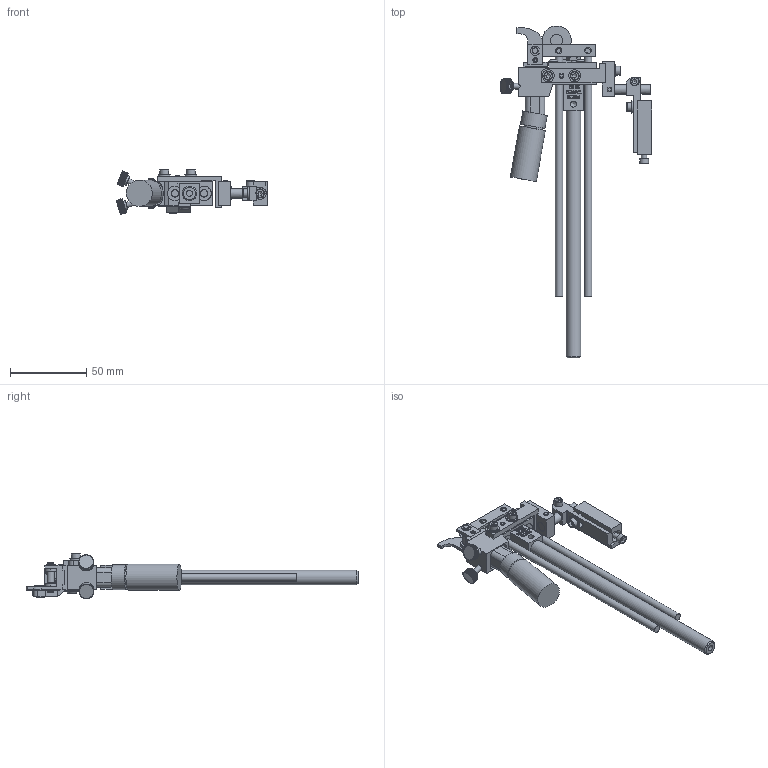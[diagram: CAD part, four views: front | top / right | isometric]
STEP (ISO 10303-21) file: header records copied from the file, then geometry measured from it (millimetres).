
FILE_DESCRIPTION((''),'2;1');
FILE_NAME('C:\Documents and Settings\Ron\My Documents\Inventor\Sprinter Drawing\Machines in Inventor\Model 22\Dot\1-fourth\Ext Str\E4\Brkt\Ret\Model 22 ES 4 1-4 dot ret w brkt.stp','2009-01-23T14:00:28',('Ron'),(''),'Autodesk Inventor 2008','Autodesk Inventor 2008','');
FILE_SCHEMA(('AUTOMOTIVE_DESIGN { 1 0 10303 214 1 1 1 1 }'));
Length unit declared in the file: inch
Products named in the file (1): Model 22 ES 4 1-4 dot ret w brkt
Bounding box: 99.17 x 217.43 x 29.55 mm (x, y, z)
Volume: 67369.1 mm3; surface area: 39495.4 mm2
Topology: 33 solids, 33 shells, 4744 faces, 13170 edges, 8746 vertices
Faces by surface type: plane 2899, bspline 1290, cylinder 484, cone 57, torus 14
Full cylindrical faces by diameter (mm): 2.845 x3, 2.946 x2, 3.175 x5, 3.505 x7, 3.556 x2, 3.658 x2, 3.876 x1, 3.962 x9, 4.064 x1, 4.166 x3, 4.648 x2, 4.699 x1, 4.75 x1, 4.763 x2, 4.788 x1, 5.41 x2, 5.556 x1, 5.74 x6, 6.096 x1, 6.325 x2, 6.35 x3, 6.477 x1, 6.655 x1, 7.925 x4, 7.938 x1, 8.128 x1, 9.462 x1, 9.525 x1, 10.922 x1, 11.938 x1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
Entity records: 166021 total; most frequent: CARTESIAN_POINT 49094, ORIENTED_EDGE 25794, DIRECTION 18489, EDGE_CURVE 12897, VECTOR 9065, LINE 9065, VERTEX_POINT 8654, EDGE_LOOP 5271
